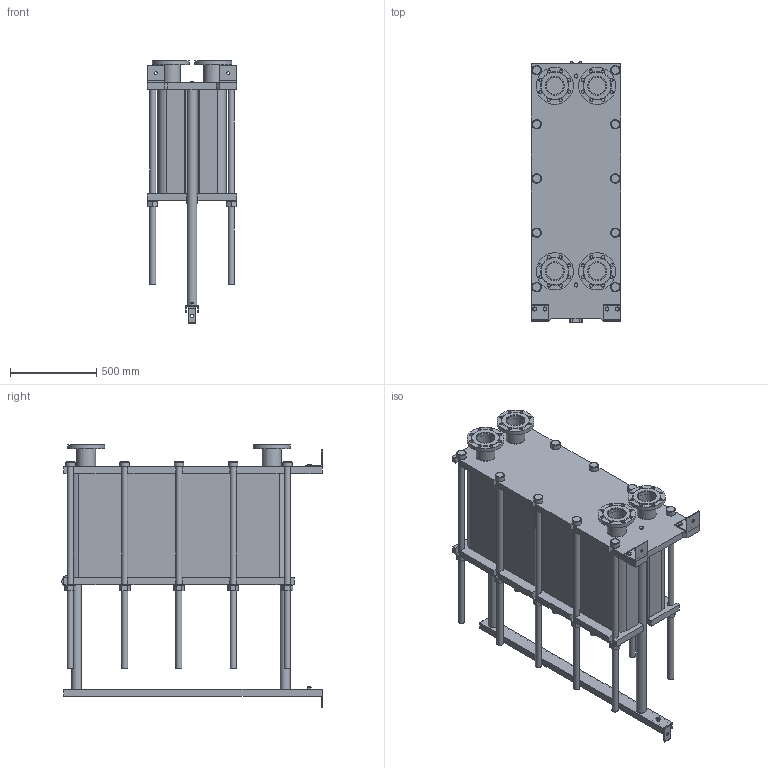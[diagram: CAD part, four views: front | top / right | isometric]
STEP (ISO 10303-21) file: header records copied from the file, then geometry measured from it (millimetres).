
FILE_DESCRIPTION(/* description */ (''),/* implementation_level */ '2;1');
FILE_NAME(/* name */ 'C:\Users\zhuro\Desktop\ENCO\TO\ЭН-04\ЭН-0,5-04-175-1.stp',/* time_stamp */ '2022-06-06T11:00:28+03:00',/* author */ ('zhuro'),/* organization */ (''),/* preprocessor_version */ 'ST-DEVELOPER v18.1',/* originating_system */ 'Autodesk Inventor 2022',/* authorisation */ '');
FILE_SCHEMA (('AUTOMOTIVE_DESIGN { 1 0 10303 214 3 1 1 }'));
Length unit declared in the file: millimetre
Products named in the file (1): ЭН-0,5-04-175-1
Bounding box: 520 x 1510 x 1527.5 mm (x, y, z)
Volume: 376970944.4 mm3; surface area: 10004519 mm2
Topology: 45 solids, 45 shells, 668 faces, 1611 edges, 1048 vertices
Faces by surface type: plane 457, cylinder 166, cone 39, torus 6
Full cylindrical faces by diameter (mm): 8 x4, 10 x2, 16 x8, 18 x35, 36 x25, 40 x2, 42 x1, 45 x4, 54 x10, 57 x2, 60 x10, 68 x2, 100 x4, 110 x8, 215 x4
Entity records: 23607 total; most frequent: CARTESIAN_POINT 7348, DIRECTION 3371, ORIENTED_EDGE 3142, EDGE_CURVE 1571, AXIS2_PLACEMENT_3D 1199, VERTEX_POINT 1044, LINE 973, VECTOR 973
